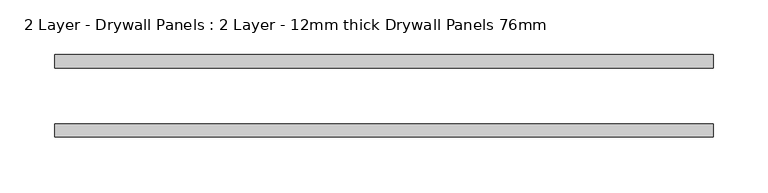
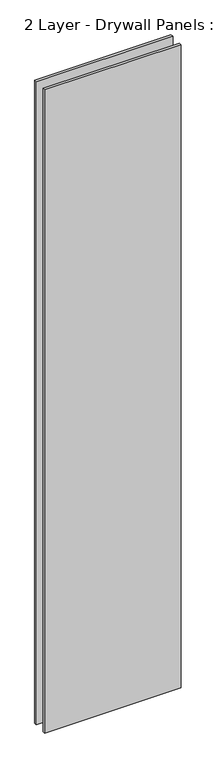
"""IFC4 building model written with IfcOpenShell, lengths in millimetres: plate geometry, 2 Layer - Drywall Panels : 2 Layer - 12mm thick Drywall Panels 76mm."""

from ifc_helpers import new_model, si_unit, origin, origin_with_axes, place, context, project, spatial, polyline, outline, extrude, source, transform, mapped, element, save


def plate_2_layer_drywall_panels_2_layer_12mm_thick_drywall_a247d09f(model_context):
    return source(origin(), model_context, "Body", "SweptSolid", [
        extrude(outline(polyline([(299.2000002, 25.5), (-299.2000002, 25.5), (-299.2000002, 37.5), (299.2000002, 37.5), (299.2000002, 25.5)])), origin_with_axes(), (0.0, 0.0, 1.0), 2979.4),
        extrude(outline(polyline([(299.2000002, -25.5), (299.2000002, -37.5), (-299.2000002, -37.5), (-299.2000002, -25.5), (299.2000002, -25.5)])), origin_with_axes(), (0.0, 0.0, 1.0), 2979.4),
    ])


if __name__ == "__main__":
    model = new_model("IFC4")
    model_context = context("Model", 3, world=origin())
    ifc_project = project(units=[si_unit("LENGTHUNIT", "METRE", prefix="MILLI")], contexts=[model_context])
    site = spatial("IfcSite", under=ifc_project)
    building = spatial("IfcBuilding", under=site)
    placement = place(None, origin())
    plate_2_layer_drywall_panels_2_layer_12mm_thick_drywall_shape = plate_2_layer_drywall_panels_2_layer_12mm_thick_drywall_a247d09f(model_context)
    element("IfcPlate", 1, ObjectType="2 Layer - Drywall Panels : 2 Layer - 12mm thick Drywall Panels 76mm", at=placement, inside=building, context=model_context, shape_type="MappedRepresentation", body=[
        mapped(plate_2_layer_drywall_panels_2_layer_12mm_thick_drywall_shape, transform((0.0, 0.0, 0.0), x_axis=(1.0, 0.0, 0.0), y_axis=(0.0, 1.0, 0.0), z_axis=(0.0, 0.0, 1.0))),
    ])
    save(model, "model.ifc")
